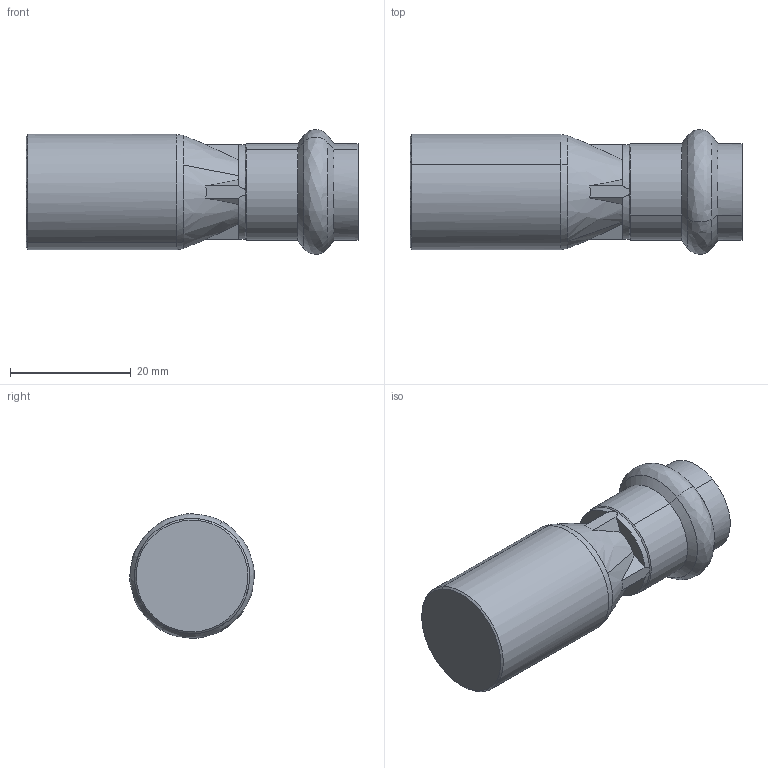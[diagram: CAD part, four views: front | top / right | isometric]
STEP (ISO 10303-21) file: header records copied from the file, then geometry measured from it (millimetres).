
FILE_DESCRIPTION(('STEP AP214'),'1');
FILE_NAME('pim0004341.stp','2015-04-30T08:20:16',('Cad-Pim'),('TransMagic, Inc.'),'TMR11sp0','TransMagic R11',' ');
FILE_SCHEMA(('AUTOMOTIVE_DESIGN'));
Length unit declared in the file: millimetre
Products named in the file (1): pim0004341
Bounding box: 55 x 20.68 x 20.68 mm (x, y, z)
Volume: 11434.5 mm3; surface area: 4484.5 mm2
Topology: 1 solids, 1 shells, 53 faces, 141 edges, 91 vertices
Faces by surface type: bspline 37, cylinder 8, cone 8
Entity records: 2445 total; most frequent: CARTESIAN_POINT 1016, ORIENTED_EDGE 282, EDGE_CURVE 141, DIRECTION 102, VERTEX_POINT 91, B_SPLINE_CURVE_WITH_KNOTS 56, STYLED_ITEM 54, PRESENTATION_STYLE_ASSIGNMENT 54
